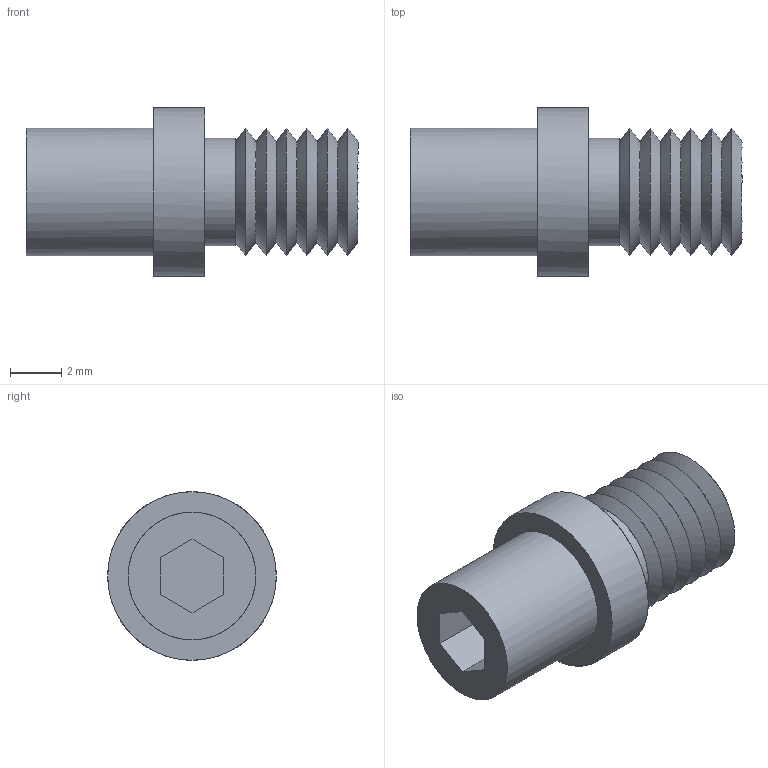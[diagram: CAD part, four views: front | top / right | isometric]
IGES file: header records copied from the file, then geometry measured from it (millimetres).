
Global section: native system: Kubotek KeyCreator; preprocessor: KCM Version 1.1.1442.0; author: KeyCreator User; organization: Self; date: 20200429.023934; units: millimetre
Bounding box: 13 x 6.6 x 6.6 mm (x, y, z)
Surface area: 338.6 mm2 (no closed solid volume)
Topology: 0 solids, 0 shells, 27 faces, 218 edges, 188 vertices
Faces by surface type: bspline 27
